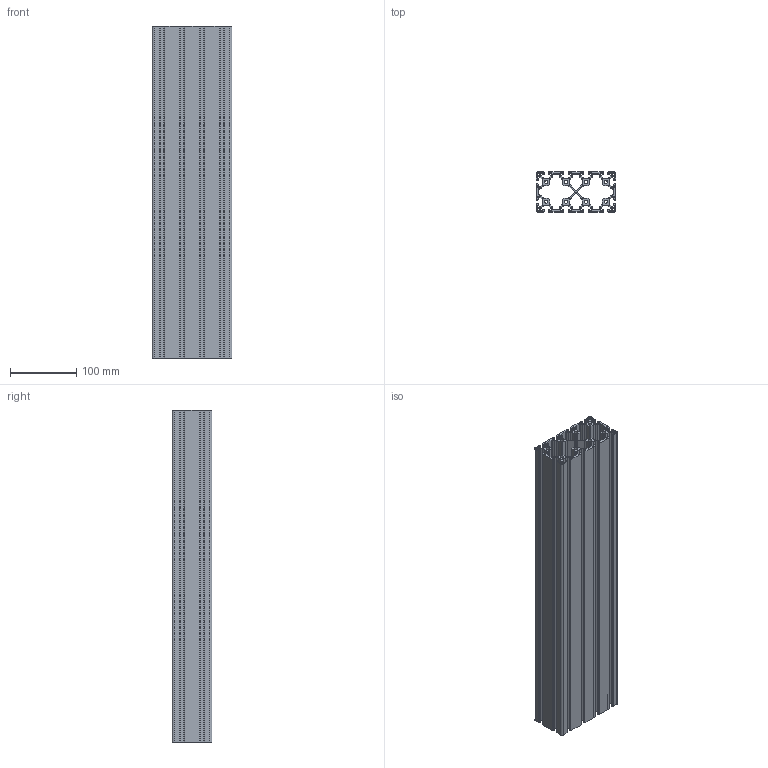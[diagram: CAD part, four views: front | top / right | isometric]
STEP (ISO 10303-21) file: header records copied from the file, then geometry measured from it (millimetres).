
FILE_DESCRIPTION (( 'STEP AP203' ), '1' );
FILE_NAME ('PP3100-500-Rollco.step', '2026-05-04T07:39:42', ( '' ), ( '' ), 'SwSTEP 2.0', 'SolidWorks 2014', '' );
FILE_SCHEMA (( 'CONFIG_CONTROL_DESIGN' ));
Length unit declared in the file: millimetre
Products named in the file (1): PP3100-500-Rollco
Bounding box: 120 x 60 x 500 mm (x, y, z)
Volume: 938837.6 mm3; surface area: 747801.7 mm2
Topology: 1 solids, 1 shells, 547 faces, 1635 edges, 1090 vertices
Faces by surface type: cylinder 281, plane 266
Entity records: 18712 total; most frequent: DIRECTION 3293, CARTESIAN_POINT 3273, ORIENTED_EDGE 3270, EDGE_CURVE 1635, AXIS2_PLACEMENT_3D 1110, VERTEX_POINT 1090, VECTOR 1073, LINE 1073
